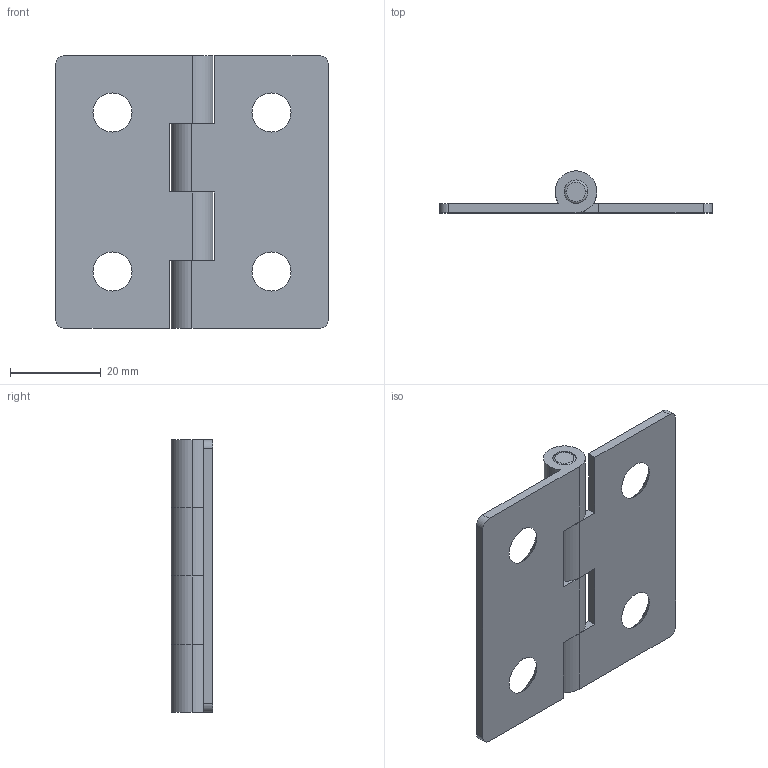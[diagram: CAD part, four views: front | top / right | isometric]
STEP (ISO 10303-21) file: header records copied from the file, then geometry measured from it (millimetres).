
FILE_DESCRIPTION (( 'STEP AP203' ), '1' );
FILE_NAME ('B27-60260.STEP', '2024-10-24T08:05:10', ( '' ), ( '' ), 'SwSTEP 2.0', 'SolidWorks 2021', '' );
FILE_SCHEMA (( 'CONFIG_CONTROL_DESIGN' ));
Length unit declared in the file: millimetre
Products named in the file (3): B27-60260; B27-60260-1; B27-60260-2
Assembly tree (3 placements, depth 2):
  B27-60260
    B27-60260-1  x2
    B27-60260-2
Bounding box: 60 x 9.2 x 60 mm (x, y, z)
Volume: 9557.8 mm3; surface area: 10436.7 mm2
Topology: 3 solids, 3 shells, 60 faces, 158 edges, 104 vertices
Faces by surface type: cylinder 26, plane 22, cone 8, torus 4
Entity records: 1395 total; most frequent: DIRECTION 210, CARTESIAN_POINT 182, ORIENTED_EDGE 172, EDGE_CURVE 86, AXIS2_PLACEMENT_3D 84, VERTEX_POINT 56, CIRCLE 44, LINE 42
